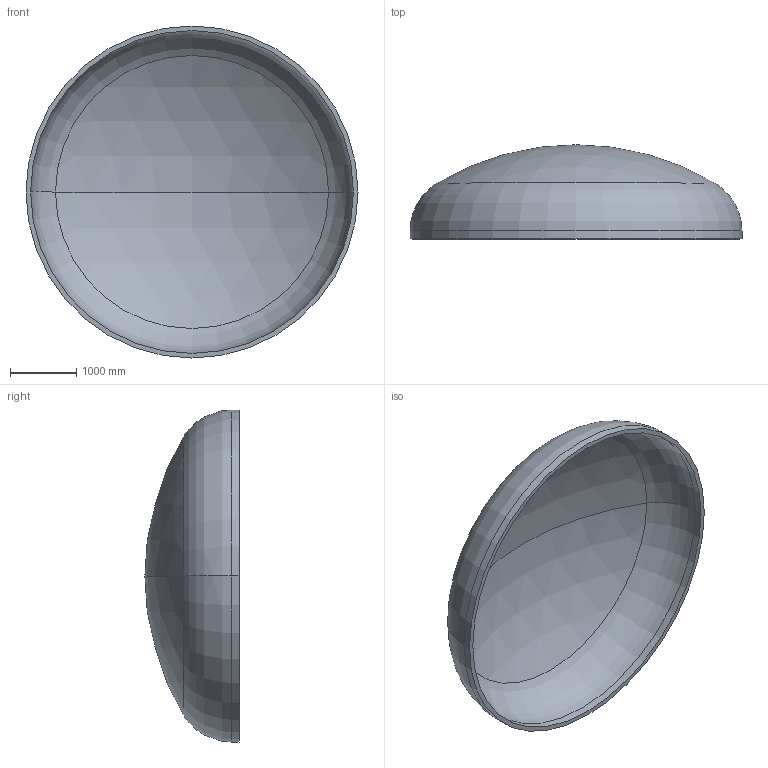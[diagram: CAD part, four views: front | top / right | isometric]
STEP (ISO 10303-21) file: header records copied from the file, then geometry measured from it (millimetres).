
FILE_DESCRIPTION (( 'STEP AP203' ), '1' );
FILE_NAME ('DIN 28013 Korbbogenform_-_Boden DIN 28013 - 5000 x 120 - I - s=70.step', '2016-07-02T00:43:33', ( '' ), ( '' ), 'SwSTEP 2.0', 'SolidWorks 2013', '' );
FILE_SCHEMA (( 'CONFIG_CONTROL_DESIGN' ));
Length unit declared in the file: millimetre
Products named in the file (1): DIN 28013 Korbbogenform_-_Boden DIN 28013 - 5000 x 120 - I - s=70
Bounding box: 5000 x 1419.21 x 5000 mm (x, y, z)
Volume: 1998801350.1 mm3; surface area: 58203015.1 mm2
Topology: 1 solids, 1 shells, 13 faces, 24 edges, 14 vertices
Faces by surface type: torus 4, cylinder 4, sphere 4, plane 1
Entity records: 407 total; most frequent: DIRECTION 72, CARTESIAN_POINT 52, ORIENTED_EDGE 48, AXIS2_PLACEMENT_3D 34, EDGE_CURVE 24, CIRCLE 20, VERTEX_POINT 14, EDGE_LOOP 14
